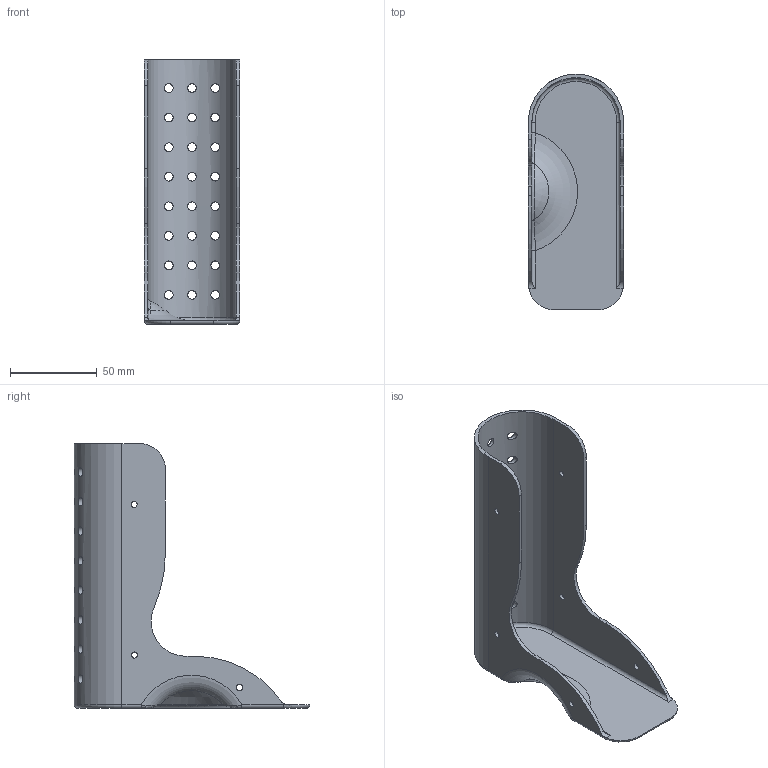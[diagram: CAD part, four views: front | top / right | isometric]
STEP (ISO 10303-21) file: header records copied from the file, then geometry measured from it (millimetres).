
FILE_DESCRIPTION(/* description */ (''),/* implementation_level */ '2;1');
FILE_NAME(/* name */ 'AFO size m left foot.step',/* time_stamp */ '2025-11-06T10:51:19+01:00',/* author */ (''),/* organization */ (''),/* preprocessor_version */ 'ST-DEVELOPER v20.1',/* originating_system */ 'Autodesk Translation Framework v14.17.0.0',/* authorisation */ '');
FILE_SCHEMA (('AUTOMOTIVE_DESIGN { 1 0 10303 214 3 1 1 }'));
Length unit declared in the file: millimetre
Products named in the file (1): 2025-10-02-12-56-12-317
Bounding box: 54.8 x 135.4 x 152.4 mm (x, y, z)
Volume: 57663.3 mm3; surface area: 58855 mm2
Topology: 1 solids, 1 shells, 79 faces, 277 edges, 200 vertices
Faces by surface type: cylinder 51, plane 11, torus 9, bspline 6, sphere 2
Full cylindrical faces by diameter (mm): 3.5 x6, 5 x24
Entity records: 4878 total; most frequent: CARTESIAN_POINT 2506, ORIENTED_EDGE 554, DIRECTION 368, EDGE_CURVE 277, VERTEX_POINT 200, AXIS2_PLACEMENT_3D 145, EDGE_LOOP 139, B_SPLINE_CURVE_WITH_KNOTS 128
